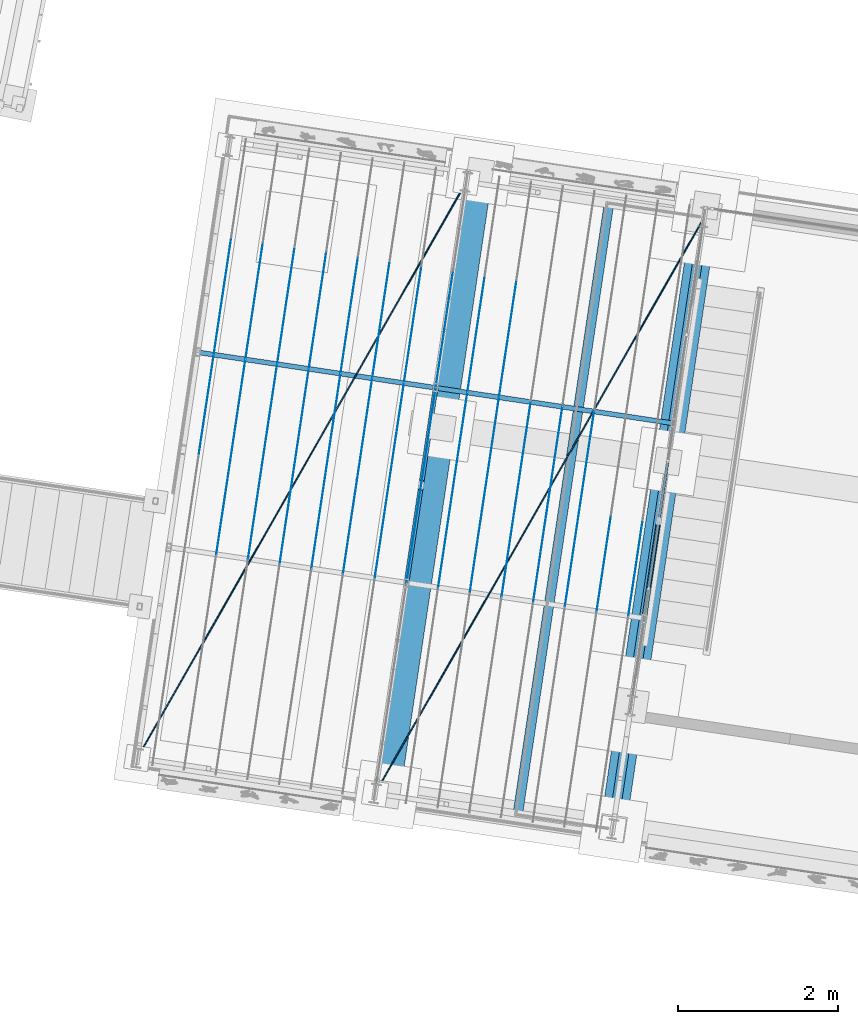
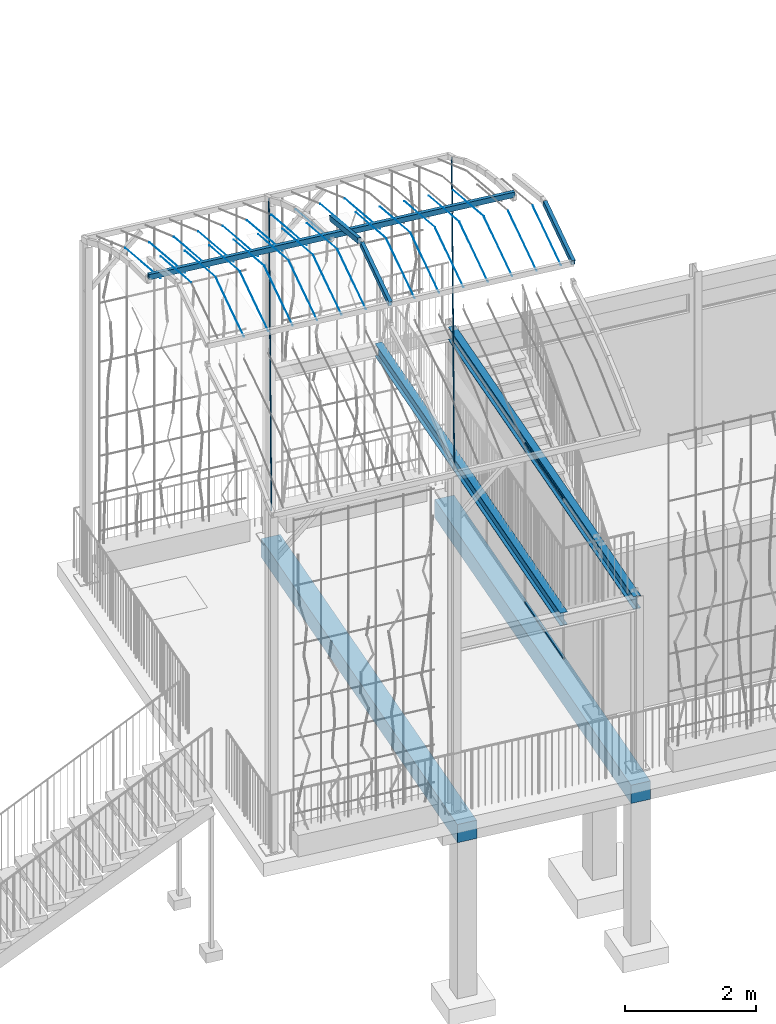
# One storey, part 29 of 143: 44 members, 5 beams, 2 elements without a shape of their own.
"""IFC4 building model written with IfcOpenShell, lengths in metres."""

from ifc_helpers import new_model, si_unit, direction, frame, origin_with_axes, place, context, subcontext, project, spatial, polyline, rectangle, hollow_rectangle, circle, i_section, outline, extrude, material, material_profile, profile_set, profile_usage, type_object, element, aggregate, save


model = new_model("IFC4")

# Units and contexts
model_context = context("Model", 3, precision=1e-05, world=origin_with_axes(), true_north=direction((0.0, 1.0)))
body_context = subcontext(model_context, "Body", "Model", "MODEL_VIEW")
ifc_project = project(units=[si_unit("VOLUMEUNIT", "CUBIC_METRE"), si_unit("LENGTHUNIT", "METRE"), si_unit("AREAUNIT", "SQUARE_METRE")], contexts=[model_context])

# Site, building, storey
site_placement = place(None, origin_with_axes())
site = spatial("IfcSite", under=ifc_project, at=site_placement, Name="Lares · Rua das Mercês · artigo 4771")
building_placement = place(site_placement, frame((15.0, 9.7, 15.8), z_axis=(0.0, 0.0, 1.0), x_axis=(0.989015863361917, -0.147809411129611, 0.0)))
building = spatial("IfcBuilding", under=site, at=building_placement, Name="Casa Sobreposta")
storey_placement = place(building_placement, origin_with_axes())
storey = spatial("IfcBuildingStorey", under=building, at=storey_placement, Name="00 · Habitação e estacionamento", Elevation=15.8)

# Assembly, beams
assembly_1_placement = place(storey_placement, origin_with_axes())
assembly_1 = element("IfcElementAssembly", 1, at=assembly_1_placement, inside=storey, Name="Pérgola · prolongamento da estufa 6 m", ObjectType="PERGOLA_GREENHOUSE_EXTENSION", PredefinedType="USERDEFINED")
ifc_material_1 = material(Name="Aço pintado / Stahl lackiert", Category="steel")
ifc_material_profile_1 = material_profile(ifc_material_1, i_section(OverallWidth=0.12, OverallDepth=0.24, WebThickness=0.0062, FlangeThickness=0.0098))
ifc_profile_set_1 = profile_set([ifc_material_profile_1], Name="IPE240")
ifc_profile_usage_1 = profile_usage(ifc_profile_set_1)
beam_type_1 = type_object("IfcBeamType", Name="IPE240 / steel", PredefinedType="NOTDEFINED", material=ifc_profile_set_1)
beam_1_placement = place(assembly_1_placement, frame((-1.2, -1.44, 3.02), z_axis=(0.0, 1.0, 0.0), x_axis=(1.0, 0.0, 0.0)))
beam_1 = element("IfcBeam", 2, at=beam_1_placement, type_object=beam_type_1, material=ifc_profile_usage_1, Name="Varanda · viga transversal", context=body_context, shape_type="SweptSolid", body=[
    extrude(i_section(OverallWidth=0.12, OverallDepth=0.24, WebThickness=0.0062, FlangeThickness=0.0098), origin_with_axes(), (0.0, 0.0, 1.0), 7.72),
])
ifc_profile_usage_2 = profile_usage(ifc_profile_set_1)
beam_2_placement = place(assembly_1_placement, frame((0.0, -1.44, 3.02), z_axis=(0.0, 1.0, 0.0), x_axis=(1.0, 0.0, 0.0)))
beam_2 = element("IfcBeam", 3, at=beam_2_placement, type_object=beam_type_1, material=ifc_profile_usage_2, Name="Varanda · viga transversal", context=body_context, shape_type="SweptSolid", body=[
    extrude(i_section(OverallWidth=0.12, OverallDepth=0.24, WebThickness=0.0062, FlangeThickness=0.0098), origin_with_axes(), (0.0, 0.0, 1.0), 7.72),
])

# Members
ifc_material_profile_2 = material_profile(ifc_material_1, rectangle(XDim=0.035, YDim=0.035))
ifc_profile_set_2 = profile_set([ifc_material_profile_2], Name="R0.035")
ifc_profile_usage_3 = profile_usage(ifc_profile_set_2)
member_type_1 = type_object("IfcMemberType", Name="R0.035 / steel", PredefinedType="NOTDEFINED", material=ifc_profile_set_2)
member_1_placement = place(storey_placement, frame((0.0, 1.6, 0.0), z_axis=(0.0, 1.0, 0.0), x_axis=(1.0, 0.0, 0.0)))
element("IfcMember", 4, at=member_1_placement, inside=storey, type_object=member_type_1, material=ifc_profile_usage_3, Name="Fachada poente integralmente envidraçada · módulo 2 · travessa", context=body_context, shape_type="SweptSolid", body=[
    extrude(rectangle(XDim=0.035, YDim=0.035), origin_with_axes(), (0.0, 0.0, 1.0), 1.6),
])
ifc_profile_usage_4 = profile_usage(ifc_profile_set_2)
member_2_placement = place(storey_placement, frame((0.0, 1.6, 2.968), z_axis=(0.0, 1.0, 0.0), x_axis=(1.0, 0.0, 0.0)))
element("IfcMember", 5, at=member_2_placement, inside=storey, type_object=member_type_1, material=ifc_profile_usage_4, Name="Fachada poente integralmente envidraçada · módulo 2 · travessa", context=body_context, shape_type="SweptSolid", body=[
    extrude(rectangle(XDim=0.035, YDim=0.035), origin_with_axes(), (0.0, 0.0, 1.0), 1.6),
])

# Member
ifc_material_profile_3 = material_profile(ifc_material_1, hollow_rectangle(XDim=0.06, YDim=0.1, WallThickness=0.004))
ifc_profile_set_3 = profile_set([ifc_material_profile_3], Name="RHS100x60x4")
ifc_profile_usage_5 = profile_usage(ifc_profile_set_3)
member_type_2 = type_object("IfcMemberType", Name="RHS100x60x4 / steel", PredefinedType="NOTDEFINED", material=ifc_profile_set_3)
member_3_placement = place(assembly_1_placement, frame((-3.0, 1.22042020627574, 7.62067689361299), z_axis=(0.0, 0.960073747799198, 0.279747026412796), x_axis=(1.0, 0.0, 0.0)))
member_3 = element("IfcMember", 6, at=member_3_placement, type_object=member_type_2, material=ifc_profile_usage_5, Name="Pérgola · arco contínuo com a estufa", context=body_context, shape_type="SweptSolid", body=[
    extrude(hollow_rectangle(XDim=0.06, YDim=0.1, WallThickness=0.004), origin_with_axes(), (0.0, 0.0, 1.0), 1.23148937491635),
])

ifc_profile_usage_6 = profile_usage(ifc_profile_set_3)
member_4_placement = place(assembly_1_placement, frame((-3.0, 2.49770027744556, 7.96518238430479), z_axis=(0.0, 0.96007374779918, -0.279747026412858), x_axis=(1.0, 0.0, 0.0)))
member_4 = element("IfcMember", 7, at=member_4_placement, type_object=member_type_2, material=ifc_profile_usage_6, Name="Pérgola · arco contínuo com a estufa", context=body_context, shape_type="SweptSolid", body=[
    extrude(hollow_rectangle(XDim=0.06, YDim=0.1, WallThickness=0.004), origin_with_axes(), (0.0, 0.0, 1.0), 1.23148937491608),
])

ifc_profile_usage_7 = profile_usage(ifc_profile_set_3)
member_5_placement = place(assembly_1_placement, frame((0.0, 1.22042020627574, 7.62067689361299), z_axis=(0.0, 0.960073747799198, 0.279747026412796), x_axis=(1.0, 0.0, 0.0)))
member_5 = element("IfcMember", 8, at=member_5_placement, type_object=member_type_2, material=ifc_profile_usage_7, Name="Pérgola · arco contínuo com a estufa", context=body_context, shape_type="SweptSolid", body=[
    extrude(hollow_rectangle(XDim=0.06, YDim=0.1, WallThickness=0.004), origin_with_axes(), (0.0, 0.0, 1.0), 1.23148937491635),
])

# Beam
ifc_material_profile_4 = material_profile(ifc_material_1, hollow_rectangle(XDim=0.06, YDim=0.1, WallThickness=0.004))
ifc_profile_set_4 = profile_set([ifc_material_profile_4], Name="RHS100x60x4")
ifc_profile_usage_8 = profile_usage(ifc_profile_set_4)
beam_type_2 = type_object("IfcBeamType", Name="RHS100x60x4 / steel", PredefinedType="NOTDEFINED", material=ifc_profile_set_4)
beam_3_placement = place(assembly_1_placement, frame((-6.0, 3.68002089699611, 7.30067689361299), z_axis=(1.0, 0.0, 0.0), x_axis=(0.0, -1.0, 0.0)))
beam_3 = element("IfcBeam", 9, at=beam_3_placement, type_object=beam_type_2, material=ifc_profile_usage_8, Name="Pérgola · terça", context=body_context, shape_type="SweptSolid", body=[
    extrude(hollow_rectangle(XDim=0.06, YDim=0.1, WallThickness=0.004), origin_with_axes(), (0.0, 0.0, 1.0), 6.0),
])

# Member
ifc_material_profile_5 = material_profile(ifc_material_1, circle(Radius=0.008))
ifc_profile_set_5 = profile_set([ifc_material_profile_5], Name="D0.016")
ifc_profile_usage_9 = profile_usage(ifc_profile_set_5)
member_type_3 = type_object("IfcMemberType", Name="D0.016 / steel", PredefinedType="NOTDEFINED", material=ifc_profile_set_5)
member_6_placement = place(assembly_1_placement, frame((-6.0, -1.44, 6.28), z_axis=(0.362213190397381, 0.932095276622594, 0.0), x_axis=(0.932095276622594, -0.362213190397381, 0.0)))
member_6 = element("IfcMember", 10, at=member_6_placement, type_object=member_type_3, material=ifc_profile_usage_9, Name="Pérgola · tirante em cobertura", context=body_context, shape_type="SweptSolid", body=[
    extrude(circle(Radius=0.008), origin_with_axes(), (0.0, 0.0, 1.0), 8.28241510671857),
])

ifc_profile_usage_10 = profile_usage(ifc_profile_set_5)
member_7_placement = place(assembly_1_placement, frame((-3.0, -1.44, 6.28), z_axis=(0.362213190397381, 0.932095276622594, 0.0), x_axis=(0.932095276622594, -0.362213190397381, 0.0)))
member_7 = element("IfcMember", 11, at=member_7_placement, type_object=member_type_3, material=ifc_profile_usage_10, Name="Pérgola · tirante em cobertura", context=body_context, shape_type="SweptSolid", body=[
    extrude(circle(Radius=0.008), origin_with_axes(), (0.0, 0.0, 1.0), 8.28241510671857),
])

ifc_material_2 = material(Name="Aço galvanizado / Stahl verzinkt", Category="steel")
ifc_material_profile_6 = material_profile(ifc_material_2, circle(Radius=0.002))
ifc_profile_set_6 = profile_set([ifc_material_profile_6], Name="D0.004")
ifc_profile_usage_11 = profile_usage(ifc_profile_set_6)
member_type_4 = type_object("IfcMemberType", Name="D0.004 / galvanized", PredefinedType="NOTDEFINED", material=ifc_profile_set_6)
member_8_placement = place(assembly_1_placement, frame((-5.8, 2.40274082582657, 7.96518238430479), z_axis=(0.0, 0.965497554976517, -0.260412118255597), x_axis=(1.0, 0.0, 0.0)))
member_8 = element("IfcMember", 12, at=member_8_placement, type_object=member_type_4, material=ifc_profile_usage_11, Name="Pérgola · fio para trepadeiras", context=body_context, shape_type="SweptSolid", body=[
    extrude(circle(Radius=0.002), origin_with_axes(), (0.0, 0.0, 1.0), 1.32292419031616),
])

ifc_profile_usage_12 = profile_usage(ifc_profile_set_6)
member_9_placement = place(assembly_1_placement, frame((-5.8, 3.68573096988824, 7.21327919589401), z_axis=(0.0, 0.965357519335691, -0.260930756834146), x_axis=(1.0, 0.0, 0.0)))
member_9 = element("IfcMember", 13, at=member_9_placement, type_object=member_type_4, material=ifc_profile_usage_12, Name="Pérgola · fio para trepadeiras", context=body_context, shape_type="SweptSolid", body=[
    extrude(circle(Radius=0.002), origin_with_axes(), (0.0, 0.0, 1.0), 1.523553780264),
])

ifc_profile_usage_13 = profile_usage(ifc_profile_set_6)
member_10_placement = place(assembly_1_placement, frame((-5.4, 1.22042020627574, 7.62067689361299), z_axis=(0.0, 0.960073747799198, 0.279747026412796), x_axis=(1.0, 0.0, 0.0)))
member_10 = element("IfcMember", 14, at=member_10_placement, type_object=member_type_4, material=ifc_profile_usage_13, Name="Pérgola · fio para trepadeiras", context=body_context, shape_type="SweptSolid", body=[
    extrude(circle(Radius=0.002), origin_with_axes(), (0.0, 0.0, 1.0), 1.23148937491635),
])

ifc_profile_usage_14 = profile_usage(ifc_profile_set_6)
member_11_placement = place(assembly_1_placement, frame((-5.4, 2.40274082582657, 7.96518238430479), z_axis=(0.0, 0.965497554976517, -0.260412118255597), x_axis=(1.0, 0.0, 0.0)))
member_11 = element("IfcMember", 15, at=member_11_placement, type_object=member_type_4, material=ifc_profile_usage_14, Name="Pérgola · fio para trepadeiras", context=body_context, shape_type="SweptSolid", body=[
    extrude(circle(Radius=0.002), origin_with_axes(), (0.0, 0.0, 1.0), 1.32292419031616),
])

ifc_profile_usage_15 = profile_usage(ifc_profile_set_6)
member_12_placement = place(assembly_1_placement, frame((-5.4, 3.68573096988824, 7.21327919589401), z_axis=(0.0, 0.965357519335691, -0.260930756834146), x_axis=(1.0, 0.0, 0.0)))
member_12 = element("IfcMember", 16, at=member_12_placement, type_object=member_type_4, material=ifc_profile_usage_15, Name="Pérgola · fio para trepadeiras", context=body_context, shape_type="SweptSolid", body=[
    extrude(circle(Radius=0.002), origin_with_axes(), (0.0, 0.0, 1.0), 1.523553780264),
])

ifc_profile_usage_16 = profile_usage(ifc_profile_set_6)
member_13_placement = place(assembly_1_placement, frame((-5.0, 1.22042020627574, 7.62067689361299), z_axis=(0.0, 0.960073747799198, 0.279747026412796), x_axis=(1.0, 0.0, 0.0)))
member_13 = element("IfcMember", 17, at=member_13_placement, type_object=member_type_4, material=ifc_profile_usage_16, Name="Pérgola · fio para trepadeiras", context=body_context, shape_type="SweptSolid", body=[
    extrude(circle(Radius=0.002), origin_with_axes(), (0.0, 0.0, 1.0), 1.23148937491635),
])

ifc_profile_usage_17 = profile_usage(ifc_profile_set_6)
member_14_placement = place(assembly_1_placement, frame((-5.0, 2.40274082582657, 7.96518238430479), z_axis=(0.0, 0.965497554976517, -0.260412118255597), x_axis=(1.0, 0.0, 0.0)))
member_14 = element("IfcMember", 18, at=member_14_placement, type_object=member_type_4, material=ifc_profile_usage_17, Name="Pérgola · fio para trepadeiras", context=body_context, shape_type="SweptSolid", body=[
    extrude(circle(Radius=0.002), origin_with_axes(), (0.0, 0.0, 1.0), 1.32292419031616),
])

ifc_profile_usage_18 = profile_usage(ifc_profile_set_6)
member_15_placement = place(assembly_1_placement, frame((-5.0, 3.68573096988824, 7.21327919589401), z_axis=(0.0, 0.965357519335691, -0.260930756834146), x_axis=(1.0, 0.0, 0.0)))
member_15 = element("IfcMember", 19, at=member_15_placement, type_object=member_type_4, material=ifc_profile_usage_18, Name="Pérgola · fio para trepadeiras", context=body_context, shape_type="SweptSolid", body=[
    extrude(circle(Radius=0.002), origin_with_axes(), (0.0, 0.0, 1.0), 1.523553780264),
])

ifc_profile_usage_19 = profile_usage(ifc_profile_set_6)
member_16_placement = place(assembly_1_placement, frame((-4.6, 1.22042020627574, 7.62067689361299), z_axis=(0.0, 0.960073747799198, 0.279747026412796), x_axis=(1.0, 0.0, 0.0)))
member_16 = element("IfcMember", 20, at=member_16_placement, type_object=member_type_4, material=ifc_profile_usage_19, Name="Pérgola · fio para trepadeiras", context=body_context, shape_type="SweptSolid", body=[
    extrude(circle(Radius=0.002), origin_with_axes(), (0.0, 0.0, 1.0), 1.23148937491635),
])

ifc_profile_usage_20 = profile_usage(ifc_profile_set_6)
member_17_placement = place(assembly_1_placement, frame((-4.6, 2.40274082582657, 7.96518238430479), z_axis=(0.0, 0.965497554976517, -0.260412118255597), x_axis=(1.0, 0.0, 0.0)))
member_17 = element("IfcMember", 21, at=member_17_placement, type_object=member_type_4, material=ifc_profile_usage_20, Name="Pérgola · fio para trepadeiras", context=body_context, shape_type="SweptSolid", body=[
    extrude(circle(Radius=0.002), origin_with_axes(), (0.0, 0.0, 1.0), 1.32292419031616),
])

ifc_profile_usage_21 = profile_usage(ifc_profile_set_6)
member_18_placement = place(assembly_1_placement, frame((-4.6, 3.68573096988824, 7.21327919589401), z_axis=(0.0, 0.965357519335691, -0.260930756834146), x_axis=(1.0, 0.0, 0.0)))
member_18 = element("IfcMember", 22, at=member_18_placement, type_object=member_type_4, material=ifc_profile_usage_21, Name="Pérgola · fio para trepadeiras", context=body_context, shape_type="SweptSolid", body=[
    extrude(circle(Radius=0.002), origin_with_axes(), (0.0, 0.0, 1.0), 1.523553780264),
])

ifc_profile_usage_22 = profile_usage(ifc_profile_set_6)
member_19_placement = place(assembly_1_placement, frame((-4.2, 1.22042020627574, 7.62067689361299), z_axis=(0.0, 0.960073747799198, 0.279747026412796), x_axis=(1.0, 0.0, 0.0)))
member_19 = element("IfcMember", 23, at=member_19_placement, type_object=member_type_4, material=ifc_profile_usage_22, Name="Pérgola · fio para trepadeiras", context=body_context, shape_type="SweptSolid", body=[
    extrude(circle(Radius=0.002), origin_with_axes(), (0.0, 0.0, 1.0), 1.23148937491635),
])

ifc_profile_usage_23 = profile_usage(ifc_profile_set_6)
member_20_placement = place(assembly_1_placement, frame((-4.2, 2.40274082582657, 7.96518238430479), z_axis=(0.0, 0.965497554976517, -0.260412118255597), x_axis=(1.0, 0.0, 0.0)))
member_20 = element("IfcMember", 24, at=member_20_placement, type_object=member_type_4, material=ifc_profile_usage_23, Name="Pérgola · fio para trepadeiras", context=body_context, shape_type="SweptSolid", body=[
    extrude(circle(Radius=0.002), origin_with_axes(), (0.0, 0.0, 1.0), 1.32292419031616),
])

ifc_profile_usage_24 = profile_usage(ifc_profile_set_6)
member_21_placement = place(assembly_1_placement, frame((-4.2, 3.68573096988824, 7.21327919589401), z_axis=(0.0, 0.965357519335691, -0.260930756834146), x_axis=(1.0, 0.0, 0.0)))
member_21 = element("IfcMember", 25, at=member_21_placement, type_object=member_type_4, material=ifc_profile_usage_24, Name="Pérgola · fio para trepadeiras", context=body_context, shape_type="SweptSolid", body=[
    extrude(circle(Radius=0.002), origin_with_axes(), (0.0, 0.0, 1.0), 1.523553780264),
])

ifc_profile_usage_25 = profile_usage(ifc_profile_set_6)
member_22_placement = place(assembly_1_placement, frame((-3.8, 1.22042020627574, 7.62067689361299), z_axis=(0.0, 0.960073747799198, 0.279747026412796), x_axis=(1.0, 0.0, 0.0)))
member_22 = element("IfcMember", 26, at=member_22_placement, type_object=member_type_4, material=ifc_profile_usage_25, Name="Pérgola · fio para trepadeiras", context=body_context, shape_type="SweptSolid", body=[
    extrude(circle(Radius=0.002), origin_with_axes(), (0.0, 0.0, 1.0), 1.23148937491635),
])

ifc_profile_usage_26 = profile_usage(ifc_profile_set_6)
member_23_placement = place(assembly_1_placement, frame((-3.8, 2.40274082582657, 7.96518238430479), z_axis=(0.0, 0.965497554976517, -0.260412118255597), x_axis=(1.0, 0.0, 0.0)))
member_23 = element("IfcMember", 27, at=member_23_placement, type_object=member_type_4, material=ifc_profile_usage_26, Name="Pérgola · fio para trepadeiras", context=body_context, shape_type="SweptSolid", body=[
    extrude(circle(Radius=0.002), origin_with_axes(), (0.0, 0.0, 1.0), 1.32292419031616),
])

ifc_profile_usage_27 = profile_usage(ifc_profile_set_6)
member_24_placement = place(assembly_1_placement, frame((-3.8, 3.68573096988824, 7.21327919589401), z_axis=(0.0, 0.965357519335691, -0.260930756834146), x_axis=(1.0, 0.0, 0.0)))
member_24 = element("IfcMember", 28, at=member_24_placement, type_object=member_type_4, material=ifc_profile_usage_27, Name="Pérgola · fio para trepadeiras", context=body_context, shape_type="SweptSolid", body=[
    extrude(circle(Radius=0.002), origin_with_axes(), (0.0, 0.0, 1.0), 1.523553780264),
])

ifc_profile_usage_28 = profile_usage(ifc_profile_set_6)
member_25_placement = place(assembly_1_placement, frame((-3.4, 1.22042020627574, 7.62067689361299), z_axis=(0.0, 0.960073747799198, 0.279747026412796), x_axis=(1.0, 0.0, 0.0)))
member_25 = element("IfcMember", 29, at=member_25_placement, type_object=member_type_4, material=ifc_profile_usage_28, Name="Pérgola · fio para trepadeiras", context=body_context, shape_type="SweptSolid", body=[
    extrude(circle(Radius=0.002), origin_with_axes(), (0.0, 0.0, 1.0), 1.23148937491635),
])

ifc_profile_usage_29 = profile_usage(ifc_profile_set_6)
member_26_placement = place(assembly_1_placement, frame((-3.4, 2.40274082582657, 7.96518238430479), z_axis=(0.0, 0.965497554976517, -0.260412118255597), x_axis=(1.0, 0.0, 0.0)))
member_26 = element("IfcMember", 30, at=member_26_placement, type_object=member_type_4, material=ifc_profile_usage_29, Name="Pérgola · fio para trepadeiras", context=body_context, shape_type="SweptSolid", body=[
    extrude(circle(Radius=0.002), origin_with_axes(), (0.0, 0.0, 1.0), 1.32292419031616),
])

ifc_profile_usage_30 = profile_usage(ifc_profile_set_6)
member_27_placement = place(assembly_1_placement, frame((-3.4, 3.68573096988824, 7.21327919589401), z_axis=(0.0, 0.965357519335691, -0.260930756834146), x_axis=(1.0, 0.0, 0.0)))
member_27 = element("IfcMember", 31, at=member_27_placement, type_object=member_type_4, material=ifc_profile_usage_30, Name="Pérgola · fio para trepadeiras", context=body_context, shape_type="SweptSolid", body=[
    extrude(circle(Radius=0.002), origin_with_axes(), (0.0, 0.0, 1.0), 1.523553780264),
])

ifc_profile_usage_31 = profile_usage(ifc_profile_set_6)
member_28_placement = place(assembly_1_placement, frame((-3.0, 1.22042020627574, 7.62067689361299), z_axis=(0.0, 0.960073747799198, 0.279747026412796), x_axis=(1.0, 0.0, 0.0)))
member_28 = element("IfcMember", 32, at=member_28_placement, type_object=member_type_4, material=ifc_profile_usage_31, Name="Pérgola · fio para trepadeiras", context=body_context, shape_type="SweptSolid", body=[
    extrude(circle(Radius=0.002), origin_with_axes(), (0.0, 0.0, 1.0), 1.23148937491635),
])

ifc_profile_usage_32 = profile_usage(ifc_profile_set_6)
member_29_placement = place(assembly_1_placement, frame((-3.0, 2.40274082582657, 7.96518238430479), z_axis=(0.0, 0.965497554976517, -0.260412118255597), x_axis=(1.0, 0.0, 0.0)))
member_29 = element("IfcMember", 33, at=member_29_placement, type_object=member_type_4, material=ifc_profile_usage_32, Name="Pérgola · fio para trepadeiras", context=body_context, shape_type="SweptSolid", body=[
    extrude(circle(Radius=0.002), origin_with_axes(), (0.0, 0.0, 1.0), 1.32292419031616),
])

ifc_profile_usage_33 = profile_usage(ifc_profile_set_6)
member_30_placement = place(assembly_1_placement, frame((-3.0, 3.68573096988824, 7.21327919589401), z_axis=(0.0, 0.965357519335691, -0.260930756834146), x_axis=(1.0, 0.0, 0.0)))
member_30 = element("IfcMember", 34, at=member_30_placement, type_object=member_type_4, material=ifc_profile_usage_33, Name="Pérgola · fio para trepadeiras", context=body_context, shape_type="SweptSolid", body=[
    extrude(circle(Radius=0.002), origin_with_axes(), (0.0, 0.0, 1.0), 1.523553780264),
])

ifc_profile_usage_34 = profile_usage(ifc_profile_set_6)
member_31_placement = place(assembly_1_placement, frame((-2.6, 1.22042020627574, 7.62067689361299), z_axis=(0.0, 0.960073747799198, 0.279747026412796), x_axis=(1.0, 0.0, 0.0)))
member_31 = element("IfcMember", 35, at=member_31_placement, type_object=member_type_4, material=ifc_profile_usage_34, Name="Pérgola · fio para trepadeiras", context=body_context, shape_type="SweptSolid", body=[
    extrude(circle(Radius=0.002), origin_with_axes(), (0.0, 0.0, 1.0), 1.23148937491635),
])

ifc_profile_usage_35 = profile_usage(ifc_profile_set_6)
member_32_placement = place(assembly_1_placement, frame((-2.6, 2.40274082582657, 7.96518238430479), z_axis=(0.0, 0.965497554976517, -0.260412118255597), x_axis=(1.0, 0.0, 0.0)))
member_32 = element("IfcMember", 36, at=member_32_placement, type_object=member_type_4, material=ifc_profile_usage_35, Name="Pérgola · fio para trepadeiras", context=body_context, shape_type="SweptSolid", body=[
    extrude(circle(Radius=0.002), origin_with_axes(), (0.0, 0.0, 1.0), 1.32292419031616),
])

ifc_profile_usage_36 = profile_usage(ifc_profile_set_6)
member_33_placement = place(assembly_1_placement, frame((-2.6, 3.68573096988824, 7.21327919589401), z_axis=(0.0, 0.965357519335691, -0.260930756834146), x_axis=(1.0, 0.0, 0.0)))
member_33 = element("IfcMember", 37, at=member_33_placement, type_object=member_type_4, material=ifc_profile_usage_36, Name="Pérgola · fio para trepadeiras", context=body_context, shape_type="SweptSolid", body=[
    extrude(circle(Radius=0.002), origin_with_axes(), (0.0, 0.0, 1.0), 1.523553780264),
])

ifc_profile_usage_37 = profile_usage(ifc_profile_set_6)
member_34_placement = place(assembly_1_placement, frame((-2.2, 1.22042020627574, 7.62067689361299), z_axis=(0.0, 0.960073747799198, 0.279747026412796), x_axis=(1.0, 0.0, 0.0)))
member_34 = element("IfcMember", 38, at=member_34_placement, type_object=member_type_4, material=ifc_profile_usage_37, Name="Pérgola · fio para trepadeiras", context=body_context, shape_type="SweptSolid", body=[
    extrude(circle(Radius=0.002), origin_with_axes(), (0.0, 0.0, 1.0), 1.23148937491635),
])

ifc_profile_usage_38 = profile_usage(ifc_profile_set_6)
member_35_placement = place(assembly_1_placement, frame((-2.2, 2.40274082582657, 7.96518238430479), z_axis=(0.0, 0.965497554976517, -0.260412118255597), x_axis=(1.0, 0.0, 0.0)))
member_35 = element("IfcMember", 39, at=member_35_placement, type_object=member_type_4, material=ifc_profile_usage_38, Name="Pérgola · fio para trepadeiras", context=body_context, shape_type="SweptSolid", body=[
    extrude(circle(Radius=0.002), origin_with_axes(), (0.0, 0.0, 1.0), 1.32292419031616),
])

ifc_profile_usage_39 = profile_usage(ifc_profile_set_6)
member_36_placement = place(assembly_1_placement, frame((-2.2, 3.68573096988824, 7.21327919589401), z_axis=(0.0, 0.965357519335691, -0.260930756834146), x_axis=(1.0, 0.0, 0.0)))
member_36 = element("IfcMember", 40, at=member_36_placement, type_object=member_type_4, material=ifc_profile_usage_39, Name="Pérgola · fio para trepadeiras", context=body_context, shape_type="SweptSolid", body=[
    extrude(circle(Radius=0.002), origin_with_axes(), (0.0, 0.0, 1.0), 1.523553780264),
])

ifc_profile_usage_40 = profile_usage(ifc_profile_set_6)
member_37_placement = place(assembly_1_placement, frame((-1.8, 1.22042020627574, 7.62067689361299), z_axis=(0.0, 0.960073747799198, 0.279747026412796), x_axis=(1.0, 0.0, 0.0)))
member_37 = element("IfcMember", 41, at=member_37_placement, type_object=member_type_4, material=ifc_profile_usage_40, Name="Pérgola · fio para trepadeiras", context=body_context, shape_type="SweptSolid", body=[
    extrude(circle(Radius=0.002), origin_with_axes(), (0.0, 0.0, 1.0), 1.23148937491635),
])

ifc_profile_usage_41 = profile_usage(ifc_profile_set_6)
member_38_placement = place(assembly_1_placement, frame((-1.8, 2.40274082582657, 7.96518238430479), z_axis=(0.0, 0.965497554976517, -0.260412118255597), x_axis=(1.0, 0.0, 0.0)))
member_38 = element("IfcMember", 42, at=member_38_placement, type_object=member_type_4, material=ifc_profile_usage_41, Name="Pérgola · fio para trepadeiras", context=body_context, shape_type="SweptSolid", body=[
    extrude(circle(Radius=0.002), origin_with_axes(), (0.0, 0.0, 1.0), 1.32292419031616),
])

ifc_profile_usage_42 = profile_usage(ifc_profile_set_6)
member_39_placement = place(assembly_1_placement, frame((-1.4, 1.22042020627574, 7.62067689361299), z_axis=(0.0, 0.960073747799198, 0.279747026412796), x_axis=(1.0, 0.0, 0.0)))
member_39 = element("IfcMember", 43, at=member_39_placement, type_object=member_type_4, material=ifc_profile_usage_42, Name="Pérgola · fio para trepadeiras", context=body_context, shape_type="SweptSolid", body=[
    extrude(circle(Radius=0.002), origin_with_axes(), (0.0, 0.0, 1.0), 1.23148937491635),
])

ifc_profile_usage_43 = profile_usage(ifc_profile_set_6)
member_40_placement = place(assembly_1_placement, frame((-1.4, 2.40274082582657, 7.96518238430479), z_axis=(0.0, 0.965497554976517, -0.260412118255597), x_axis=(1.0, 0.0, 0.0)))
member_40 = element("IfcMember", 44, at=member_40_placement, type_object=member_type_4, material=ifc_profile_usage_43, Name="Pérgola · fio para trepadeiras", context=body_context, shape_type="SweptSolid", body=[
    extrude(circle(Radius=0.002), origin_with_axes(), (0.0, 0.0, 1.0), 1.32292419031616),
])

ifc_profile_usage_44 = profile_usage(ifc_profile_set_6)
member_41_placement = place(assembly_1_placement, frame((-0.999999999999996, 1.22042020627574, 7.62067689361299), z_axis=(0.0, 0.960073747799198, 0.279747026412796), x_axis=(1.0, 0.0, 0.0)))
member_41 = element("IfcMember", 45, at=member_41_placement, type_object=member_type_4, material=ifc_profile_usage_44, Name="Pérgola · fio para trepadeiras", context=body_context, shape_type="SweptSolid", body=[
    extrude(circle(Radius=0.002), origin_with_axes(), (0.0, 0.0, 1.0), 1.23148937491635),
])

ifc_profile_usage_45 = profile_usage(ifc_profile_set_6)
member_42_placement = place(assembly_1_placement, frame((-0.999999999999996, 2.40274082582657, 7.96518238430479), z_axis=(0.0, 0.965497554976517, -0.260412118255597), x_axis=(1.0, 0.0, 0.0)))
member_42 = element("IfcMember", 46, at=member_42_placement, type_object=member_type_4, material=ifc_profile_usage_45, Name="Pérgola · fio para trepadeiras", context=body_context, shape_type="SweptSolid", body=[
    extrude(circle(Radius=0.002), origin_with_axes(), (0.0, 0.0, 1.0), 1.32292419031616),
])

ifc_profile_usage_46 = profile_usage(ifc_profile_set_6)
member_43_placement = place(assembly_1_placement, frame((-0.599999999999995, 1.22042020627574, 7.62067689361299), z_axis=(0.0, 0.960073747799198, 0.279747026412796), x_axis=(1.0, 0.0, 0.0)))
member_43 = element("IfcMember", 47, at=member_43_placement, type_object=member_type_4, material=ifc_profile_usage_46, Name="Pérgola · fio para trepadeiras", context=body_context, shape_type="SweptSolid", body=[
    extrude(circle(Radius=0.002), origin_with_axes(), (0.0, 0.0, 1.0), 1.23148937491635),
])

ifc_profile_usage_47 = profile_usage(ifc_profile_set_6)
member_44_placement = place(assembly_1_placement, frame((-0.199999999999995, 1.22042020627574, 7.62067689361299), z_axis=(0.0, 0.960073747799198, 0.279747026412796), x_axis=(1.0, 0.0, 0.0)))
member_44 = element("IfcMember", 48, at=member_44_placement, type_object=member_type_4, material=ifc_profile_usage_47, Name="Pérgola · fio para trepadeiras", context=body_context, shape_type="SweptSolid", body=[
    extrude(circle(Radius=0.002), origin_with_axes(), (0.0, 0.0, 1.0), 1.23148937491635),
])

aggregate(assembly_1, [member_3, member_4, member_5, beam_3, member_6, member_7, member_8, member_9, member_10, member_11, member_12, member_13, member_14, member_15, member_16, member_17, member_18, member_19, member_20, member_21, member_22, member_23, member_24, member_25, member_26, member_27, member_28, member_29, member_30, member_31, member_32, member_33, member_34, member_35, member_36, member_37, member_38, member_39, member_40, member_41, member_42, member_43, member_44, beam_1, beam_2])

# Assembly, beams
assembly_2_placement = place(storey_placement, origin_with_axes())
assembly_2 = element("IfcElementAssembly", 49, at=assembly_2_placement, inside=storey, Name="Pódio · terraço, casa térrea e cisterna", ObjectType="CISTERN_PODIUM", PredefinedType="USERDEFINED")
ifc_material_3 = material(Name="Betão armado / Stahlbeton", Category="concrete")
beam_4_placement = place(assembly_2_placement, frame((0.0, 0.0, -0.59), z_axis=(0.0, 0.0, 1.0), x_axis=(1.0, 0.0, 0.0)))
beam_4 = element("IfcBeam", 50, at=beam_4_placement, material=ifc_material_3, Name="Pódio suspenso · viga transversal", context=body_context, shape_type="SweptSolid", body=[
    extrude(outline(polyline([(-2.69, -1.59), (-2.69, 6.59), (-3.01, 6.59), (-3.01, -1.59), (-2.69, -1.59)])), origin_with_axes(), (0.0, 0.0, 1.0), 0.34),
])
beam_5_placement = place(assembly_2_placement, frame((0.0, 0.0, -0.59), z_axis=(0.0, 0.0, 1.0), x_axis=(1.0, 0.0, 0.0)))
beam_5 = element("IfcBeam", 51, at=beam_5_placement, material=ifc_material_3, Name="Pódio suspenso · viga transversal", context=body_context, shape_type="SweptSolid", body=[
    extrude(outline(polyline([(0.16, -1.59), (0.16, 6.59), (-0.16, 6.59), (-0.16, -1.59), (0.16, -1.59)])), origin_with_axes(), (0.0, 0.0, 1.0), 0.34),
])
aggregate(assembly_2, [beam_4, beam_5])

save(model, "model.ifc")
